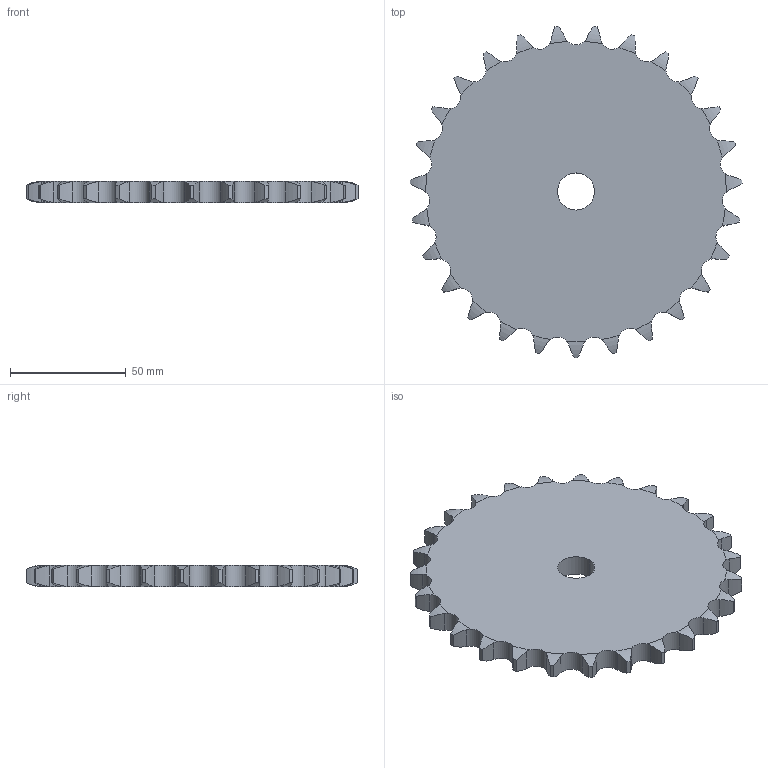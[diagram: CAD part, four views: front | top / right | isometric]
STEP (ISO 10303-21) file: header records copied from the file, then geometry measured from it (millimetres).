
FILE_DESCRIPTION((''),'2;1');
FILE_NAME('500-301-0027_PRT','2021-02-12T',('Brieden'),('Brieden'),'PRO/ENGINEER BY PARAMETRIC TECHNOLOGY CORPORATION, 2010160','PRO/ENGINEER BY PARAMETRIC TECHNOLOGY CORPORATION, 2010160','');
FILE_SCHEMA(('AUTOMOTIVE_DESIGN { 1 0 10303 214 1 1 1 1 }'));
Length unit declared in the file: millimetre
Products named in the file (1): 500-301-0027_PRT
Bounding box: 143.24 x 143 x 9.1 mm (x, y, z)
Volume: 123614.8 mm3; surface area: 33362.5 mm2
Topology: 1 solids, 1 shells, 166 faces, 492 edges, 328 vertices
Faces by surface type: cylinder 110, torus 54, plane 2
Entity records: 8118 total; most frequent: CARTESIAN_POINT 2387, ORIENTED_EDGE 984, DIRECTION 774, PRESENTATION_STYLE_ASSIGNMENT 493, STYLED_ITEM 493, CURVE_STYLE 492, EDGE_CURVE 492, AXIS2_PLACEMENT_3D 332
